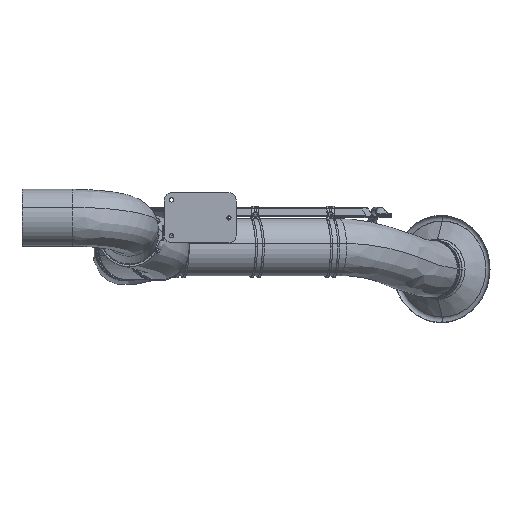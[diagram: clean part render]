
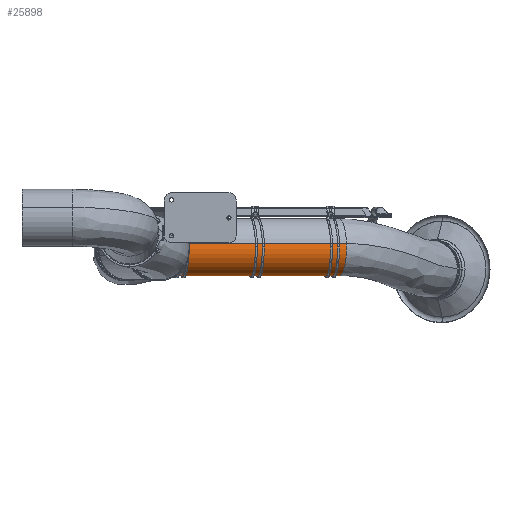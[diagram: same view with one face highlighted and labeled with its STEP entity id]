
A CAD part, left-side view. The second image highlights one B-rep face of the part: STEP entity #25898.
In plain terms, the highlighted free-form (B-spline) face has degree [3, 3] with [7, 6] control points.
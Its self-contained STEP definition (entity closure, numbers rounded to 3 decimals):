
#24814=CARTESIAN_POINT('',(836.616,-417.701,-82.));
#24815=DIRECTION('',(-0.259,0.966,0.));
#24816=DIRECTION('',(0.958,0.257,-0.125));
#24817=AXIS2_PLACEMENT_3D('',#24814,#24815,#24816);
#24822=CARTESIAN_POINT('',(913.285,-397.157,
-91.991));
#24823=CARTESIAN_POINT('',(900.056,-347.788,
-91.991));
#24824=CARTESIAN_POINT('',(873.599,-249.049,
-91.991));
#24825=CARTESIAN_POINT('',(833.914,-100.94,
-91.991));
#24826=CARTESIAN_POINT('',(807.457,-2.201,
-91.991));
#24827=CARTESIAN_POINT('',(794.228,47.169,
-91.991));
#24840=CARTESIAN_POINT('',(759.947,-438.244,
-72.009));
#24841=CARTESIAN_POINT('',(746.718,-388.875,
-72.009));
#24842=CARTESIAN_POINT('',(720.261,-290.135,
-72.009));
#24843=CARTESIAN_POINT('',(680.576,-142.027,
-72.009));
#24844=CARTESIAN_POINT('',(654.119,-43.288,
-72.009));
#24845=CARTESIAN_POINT('',(640.89,6.082,
-72.009));
#24913=CARTESIAN_POINT('',(717.559,26.625,-82.));
#24914=DIRECTION('',(-0.259,0.966,0.));
#24915=DIRECTION('',(0.958,0.257,-0.125));
#24916=AXIS2_PLACEMENT_3D('',#24913,#24914,#24915);
#25391=CARTESIAN_POINT('',(913.285,-397.157,
-91.991));
#25392=CARTESIAN_POINT('',(759.947,-438.244,
-72.009));
#25393=VERTEX_POINT('',#25391);
#25394=VERTEX_POINT('',#25392);
#25395=CARTESIAN_POINT('',(794.228,47.169,
-91.991));
#25396=CARTESIAN_POINT('',(640.89,6.082,
-72.009));
#25397=VERTEX_POINT('',#25395);
#25398=VERTEX_POINT('',#25396);
#25846=CARTESIAN_POINT('',(916.121,-405.922,
-86.988));
#25847=CARTESIAN_POINT('',(915.327,-402.96,
-86.988));
#25848=CARTESIAN_POINT('',(874.848,-251.889,
-86.988));
#25849=CARTESIAN_POINT('',(833.575,-97.856,
-86.988));
#25850=CARTESIAN_POINT('',(793.095,53.215,
-86.988));
#25851=CARTESIAN_POINT('',(792.302,56.177,
-86.988));
#25852=CARTESIAN_POINT('',(913.156,-406.716,
-136.124));
#25853=CARTESIAN_POINT('',(912.362,-403.754,
-136.124));
#25854=CARTESIAN_POINT('',(871.883,-252.683,
-136.124));
#25855=CARTESIAN_POINT('',(830.61,-98.65,
-136.124));
#25856=CARTESIAN_POINT('',(790.131,52.42,
-136.124));
#25857=CARTESIAN_POINT('',(789.337,55.383,
-136.124));
#25858=CARTESIAN_POINT('',(876.528,-416.531,
-167.522));
#25859=CARTESIAN_POINT('',(875.734,-413.569,
-167.522));
#25860=CARTESIAN_POINT('',(835.255,-262.498,
-167.522));
#25861=CARTESIAN_POINT('',(793.982,-108.465,
-167.522));
#25862=CARTESIAN_POINT('',(753.503,42.606,
-167.522));
#25863=CARTESIAN_POINT('',(752.709,45.568,
-167.522));
#25864=CARTESIAN_POINT('',(829.346,-429.173,
-161.374));
#25865=CARTESIAN_POINT('',(828.552,-426.211,
-161.374));
#25866=CARTESIAN_POINT('',(788.073,-275.14,
-161.374));
#25867=CARTESIAN_POINT('',(746.8,-121.107,
-161.374));
#25868=CARTESIAN_POINT('',(706.321,29.964,
-161.374));
#25869=CARTESIAN_POINT('',(705.527,32.926,
-161.374));
#25870=CARTESIAN_POINT('',(782.164,-441.816,
-155.225));
#25871=CARTESIAN_POINT('',(781.37,-438.853,
-155.225));
#25872=CARTESIAN_POINT('',(740.891,-287.783,
-155.225));
#25873=CARTESIAN_POINT('',(699.618,-133.75,
-155.225));
#25874=CARTESIAN_POINT('',(659.139,17.321,
-155.225));
#25875=CARTESIAN_POINT('',(658.345,20.283,
-155.225));
#25876=CARTESIAN_POINT('',(754.195,-449.31,
-115.408));
#25877=CARTESIAN_POINT('',(753.402,-446.348,
-115.408));
#25878=CARTESIAN_POINT('',(712.922,-295.277,
-115.408));
#25879=CARTESIAN_POINT('',(671.649,-141.244,
-115.408));
#25880=CARTESIAN_POINT('',(631.17,9.827,
-115.408));
#25881=CARTESIAN_POINT('',(630.376,12.789,
-115.408));
#25882=CARTESIAN_POINT('',(763.085,-446.928,
-67.044));
#25883=CARTESIAN_POINT('',(762.292,-443.966,
-67.044));
#25884=CARTESIAN_POINT('',(721.812,-292.895,
-67.044));
#25885=CARTESIAN_POINT('',(680.539,-138.862,
-67.044));
#25886=CARTESIAN_POINT('',(640.06,12.209,
-67.044));
#25887=CARTESIAN_POINT('',(639.266,15.171,
-67.044));
#25888=(BOUNDED_SURFACE()B_SPLINE_SURFACE(3,3,((#25846,#25847,#25848,#25849,
#25850,#25851),(#25852,#25853,#25854,#25855,#25856,#25857),(#25858,#25859,
#25860,#25861,#25862,#25863),(#25864,#25865,#25866,#25867,#25868,#25869),
(#25870,#25871,#25872,#25873,#25874,#25875),(#25876,#25877,#25878,#25879,#25880,
#25881),(#25882,#25883,#25884,#25885,#25886,#25887)),.UNSPECIFIED.,.F.,.F.,.F.)B_SPLINE_SURFACE_WITH_KNOTS((4,3,4),(4,1,1,4),(0.,1.,2.),(-0.02,0.,1.,
1.02),.UNSPECIFIED.)GEOMETRIC_REPRESENTATION_ITEM()RATIONAL_B_SPLINE_SURFACE((
(1.187,1.187,1.187,1.187,
1.187,1.187),(0.938,0.938,
0.938,0.938,0.938,0.938),(
0.938,0.938,0.938,0.938,
0.938,0.938),(1.187,1.187,
1.187,1.187,1.187,1.187),(
0.938,0.938,0.938,0.938,
0.938,0.938),(0.938,0.938,
0.938,0.938,0.938,0.938),(
1.187,1.187,1.187,1.187,
1.187,1.187)))REPRESENTATION_ITEM('')SURFACE());
#25889=ORIENTED_EDGE('',*,*,#25833,.F.);
#25891=ORIENTED_EDGE('',*,*,#25890,.T.);
#25893=ORIENTED_EDGE('',*,*,#25892,.T.);
#25895=ORIENTED_EDGE('',*,*,#25894,.F.);
#25896=EDGE_LOOP('',(#25889,#25891,#25893,#25895));
#25897=FACE_OUTER_BOUND('',#25896,.F.);
#24818=CIRCLE('',#24817,80.);
#24828=B_SPLINE_CURVE_WITH_KNOTS('',3,(#24822,#24823,#24824,#24825,#24826,
#24827),.UNSPECIFIED.,.F.,.F.,(4,1,1,4),(0.,0.333,
0.667,1.),.UNSPECIFIED.);
#24846=B_SPLINE_CURVE_WITH_KNOTS('',3,(#24840,#24841,#24842,#24843,#24844,
#24845),.UNSPECIFIED.,.F.,.F.,(4,1,1,4),(0.,0.333,
0.667,1.),.UNSPECIFIED.);
#24917=CIRCLE('',#24916,80.);
#25833=EDGE_CURVE('',#25393,#25394,#24818,.T.);
#25890=EDGE_CURVE('',#25393,#25397,#24828,.T.);
#25892=EDGE_CURVE('',#25397,#25398,#24917,.T.);
#25894=EDGE_CURVE('',#25394,#25398,#24846,.T.);
#25898=ADVANCED_FACE('',(#25897),#25888,.T.);
